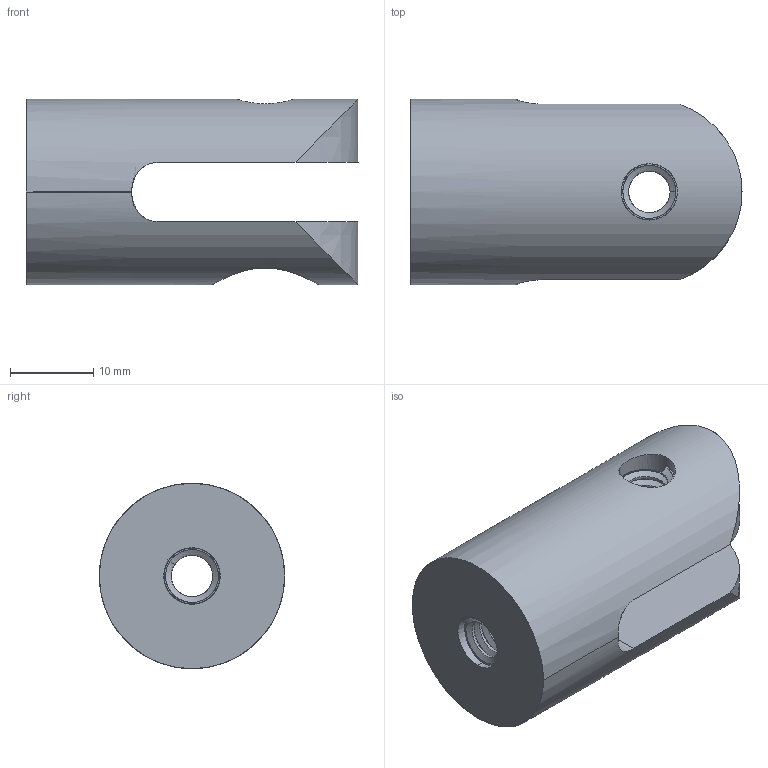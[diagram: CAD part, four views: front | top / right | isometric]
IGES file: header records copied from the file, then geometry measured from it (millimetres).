
Start section: SolidWorks IGES file using analytic representation for surfaces
Global section: file name: \\SERVER3\Design\_New Design Drive Folder List\_Design Vault\AAI\Modular Round Tube Connectors\Solidworks Models\STP Files\12202013\0.750 Inch Modular Connectors\DRP-002-0532-00.IGS; native system: SolidWorks 2013; preprocessor: SolidWorks 2013; author: tbraun; date: 131220.123640; units: inch
Bounding box: 39.81 x 22.23 x 22.23 mm (x, y, z)
Surface area: 5167.2 mm2 (no closed solid volume)
Topology: 0 solids, 0 shells, 43 faces, 751 edges, 751 vertices
Faces by surface type: bspline 26, revolution 17
